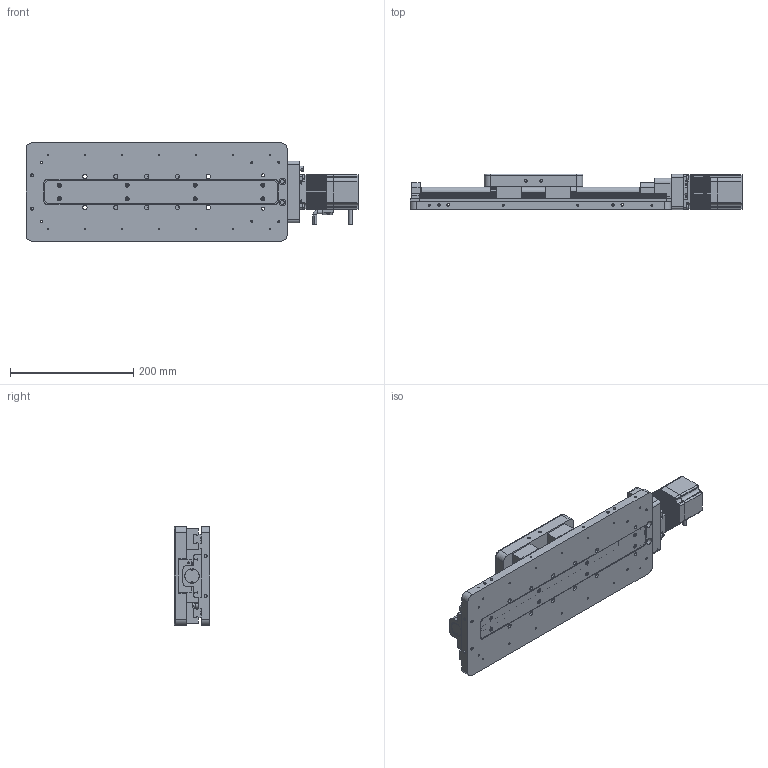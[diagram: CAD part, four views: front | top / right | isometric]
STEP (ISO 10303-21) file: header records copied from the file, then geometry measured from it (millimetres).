
FILE_DESCRIPTION (( 'STEP AP203' ), '1' );
FILE_NAME ('7STA09200Cµç¶¯Æ½ÒÆÌ¨.STEP', '2022-04-14T05:22:46', ( '' ), ( '' ), 'SwSTEP 2.0', 'SolidWorks 2018', '' );
FILE_SCHEMA (( 'CONFIG_CONTROL_DESIGN' ));
Length unit declared in the file: millimetre
Products named in the file (1): 7STA09200C萇雄す痄怢
Bounding box: 538 x 58 x 160 mm (x, y, z)
Surface area: 380901.3 mm2 (no closed solid volume)
Topology: 0 solids, 422 shells, 2650 faces, 9079 edges, 6705 vertices
Faces by surface type: cylinder 1310, plane 1145, torus 89, cone 58, sphere 34, bspline 14
Entity records: 98354 total; most frequent: CARTESIAN_POINT 20660, DIRECTION 17398, ORIENTED_EDGE 12597, EDGE_CURVE 8975, VERTEX_POINT 6661, AXIS2_PLACEMENT_3D 6085, VECTOR 5228, LINE 5228
